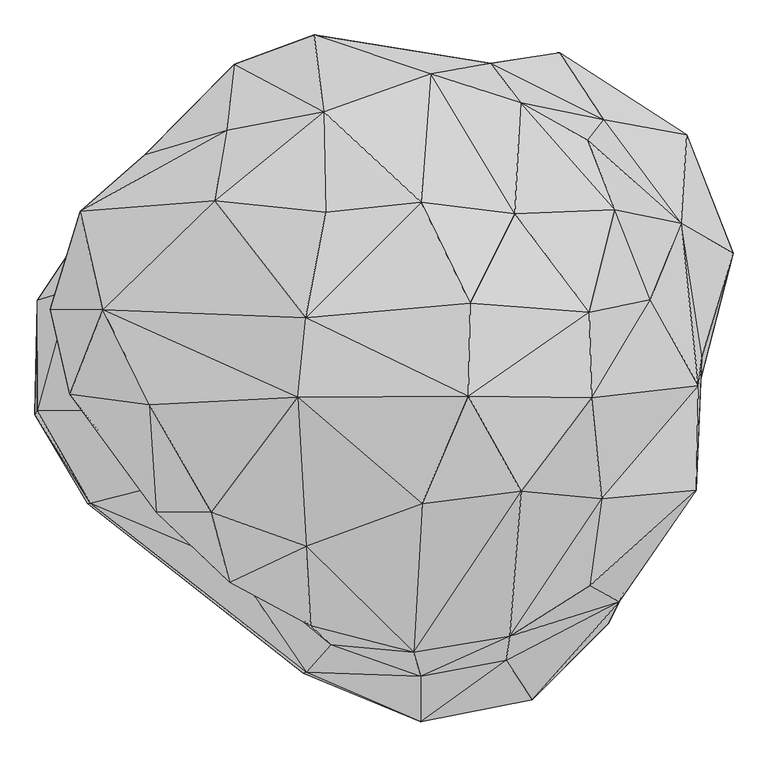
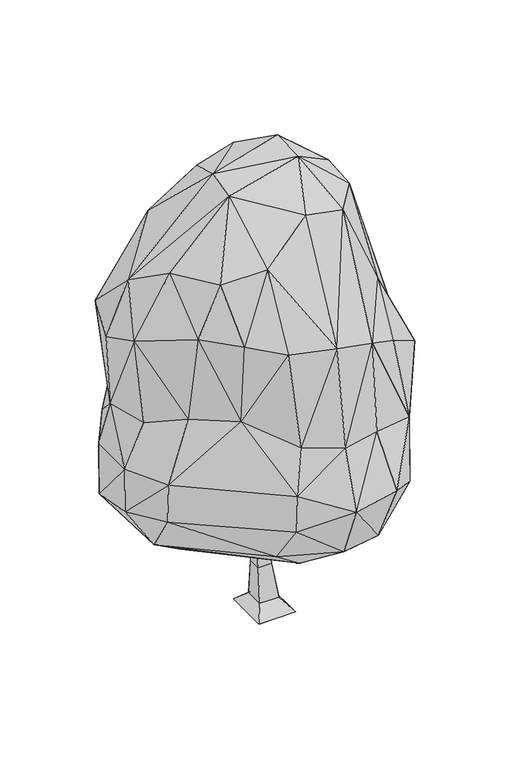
"""IFC4 building model written with IfcOpenShell, lengths in millimetres: geographic element geometry, Enscape AssetDefinition - Evergreen Tree 066 Lophostemon : Enscape AssetDefinition - Evergreen Tree 066 Lophostemon 2."""

from ifc_helpers import new_model, si_unit, origin, place, context, project, spatial, triangles, source, transform, mapped, element, save


def geographic_element_27884fb9(model_context):
    return source(origin(), model_context, "Body", "Tessellation", [
        triangles([(213.655745, 233.5513511, 0.0), (213.655745, -336.1697059, 0.0), (-257.6348193, -336.1697059, 0.0), (-257.6348193, 233.5513511, 0.0), (-123.3651534, -123.3651534, 104.2936613), (-103.8228506, -54.797005, 539.0462033), (123.3651534, 123.3651534, 104.2936613), (-123.3651534, 123.3651534, 104.2936613), (123.3651534, -123.3651534, 104.2936613), (70.910629, 119.9364837, 539.0462033), (-140.2031882, 70.6686516, 1834.4518353), (-103.8228506, 119.9364837, 539.0462033), (-140.2031882, 220.097939, 1834.4518353), (9.2261209, 220.097939, 1834.4518353), (70.910629, -54.797005, 539.0462033), (9.2261209, 70.6686516, 1834.4518353), (1027.1825781, 338.9304385, 5457.8279068), (663.5346439, 1445.8182896, 4253.2773033), (188.2000495, 1600.7041843, 4318.6744743), (633.9823053, 858.3871399, 5513.5762482), (397.507132, 385.4383192, 5988.7972412), (138.8989618, 918.3762835, 5655.5460709), (-471.707254, 309.7561292, 5808.4640625), (-378.20137, 1398.5256821, 4826.1077454), (-851.991382, 1649.0634418, 3235.1350891), (-366.0011335, 866.4629551, 5549.4670807), (-1666.1150173, 871.0311356, 4169.6460709), (-953.4462358, 928.7295759, 5109.5137024), (-891.1378298, 1301.9490189, 4463.8685188), (-1824.2292034, 353.1685593, 4037.1846794), (-1323.9722385, 1170.6790518, 3934.2543343), (-1718.9112133, 455.0161217, 3034.2232246), (-1892.3094955, 400.5801275, 2585.4398621), (-1559.0891373, 902.748967, 2626.9518631), (-1547.0381287, 351.5303598, 4720.8438217), (-1721.6936016, -95.7192664, 4211.4202652), (-1299.6607864, -151.0396543, 5024.970607), (-514.0419519, -112.6863903, 5774.2359192), (388.3358894, -105.8236279, 6000.0000458), (1039.6610315, -115.1247316, 5409.7372375), (1351.3244934, 403.8936244, 4301.4822098), (1604.3995983, -51.1982466, 3534.3281639), (143.3504434, -676.6355158, 5628.0814682), (667.4495939, -608.9448801, 5474.5280502), (-469.9345425, -901.1749352, 5236.7065201), (-445.636934, -1321.6437469, 4318.8078964), (97.6087132, -1461.1759277, 4304.7096291), (135.3659198, -1588.089402, 3010.3578209), (-971.9905254, -720.8844864, 5090.2456924), (-875.6650824, -1090.9140804, 4443.2677414), (-861.3504765, -989.8806398, 3358.9188126), (-340.7904994, -1420.5775337, 3082.4752213), (-1321.4241383, -597.4504509, 3314.393914), (-1263.9136951, -721.18207, 4452.2099281), (-1650.4597229, -181.1084403, 3135.1406113), (-1612.0107616, -672.7050871, 2565.7898987), (-1894.430151, -182.9120547, 2586.8069298), (-1905.664785, -203.8119055, 2026.3751495), (-1893.2581295, 389.6895859, 1905.9902012), (-1627.2947124, -674.2234537, 2067.7211723), (-566.1872792, -1269.9746624, 1591.8699852), (-1592.9415768, -313.8164191, 1535.0799923), (-1303.0778744, 341.1399693, 1287.9708023), (116.6570055, -1587.380579, 1613.617931), (-485.0864882, -1572.0633453, 2075.756583), (-147.7617203, -1050.4171337, 1222.0527328), (567.2371425, 420.2446249, 922.450526), (-382.8105726, 862.8254591, 1268.4137112), (-1153.5944841, -141.639583, 1216.9558056), (497.2542412, 870.2271149, 959.1910887), (1056.7240162, -1053.9748381, 1587.0365593), (547.3979828, -975.1857519, 1225.6113819), (1621.6071236, 881.8537308, 1540.7838593), (1144.8979219, 285.484046, 1062.5709703), (585.7860103, -1547.6828568, 1649.0582096), (1488.6415478, -519.7644224, 2065.8834938), (1633.8358829, 318.9899769, 1545.920319), (1543.6242382, 1278.3728416, 2074.5707542), (1126.5570356, 881.0095236, 1063.6988811), (1196.4162163, 1425.666758, 1484.6276939), (1788.311919, 651.2486206, 2063.3446953), (1622.9012306, 100.7327958, 2738.0558372), (1092.9829222, -647.5516806, 4420.8696899), (1593.8970417, -604.9881812, 3369.3771858), (1029.09438, -1109.4112072, 3882.0424049), (606.6757962, -1376.157716, 4148.3813805), (1129.2867382, -1306.5699577, 2048.3264259), (1186.4324507, -1192.6001701, 2833.548555), (726.9694347, -1712.002914, 2306.0291553), (588.3132543, -1503.9249172, 3031.4030479), (136.1513824, -1829.596027, 2290.0238823), (-470.9929081, -1566.884301, 2549.9292389), (1513.0311928, 809.0173336, 2933.4279236), (1104.8662811, 1355.8028538, 3029.387764), (1163.2249283, 881.4895815, 4414.6462326), (1020.3383011, 1246.8769444, 3994.2785774), (870.9948732, 1712.3399574, 2075.5734547), (506.3573919, 1654.9507278, 2773.8594658), (-427.2596764, 1805.0062489, 3268.8237305), (610.0944466, 1484.7460007, 1310.6788639), (-928.1667469, 1299.803801, 2342.725898), (-74.3826009, 1558.1066391, 2230.0340847), (44.6539922, 1383.3081516, 1502.7127819), (-1512.8951546, 981.6951656, 2009.9167065), (-1335.8415722, 837.4424881, 1581.4547779)], [[34, 59, 33], [34, 104, 59], [104, 105, 59], [59, 105, 63], [68, 63, 105], [25, 101, 34], [34, 101, 104], [104, 101, 105], [105, 103, 68], [101, 103, 105], [70, 68, 103], [100, 70, 103], [25, 99, 102], [25, 102, 101], [102, 100, 103], [102, 103, 101], [102, 97, 100], [97, 102, 98], [98, 102, 99], [18, 94, 98], [98, 94, 97], [96, 94, 18], [96, 18, 95], [96, 95, 93], [96, 93, 94], [93, 95, 41], [91, 65, 64], [75, 91, 64], [92, 91, 48], [65, 91, 92], [75, 89, 91], [87, 89, 75], [91, 89, 90], [91, 90, 48], [90, 86, 48], [88, 89, 87], [89, 88, 90], [88, 86, 90], [76, 88, 87], [88, 85, 86], [85, 83, 86], [76, 84, 88], [84, 85, 88], [83, 85, 84], [93, 41, 42], [83, 84, 42], [93, 42, 82], [76, 82, 84], [42, 84, 82], [81, 93, 82], [76, 81, 82], [94, 93, 78], [94, 78, 97], [93, 81, 78], [97, 80, 100], [97, 78, 80], [80, 79, 100], [79, 70, 100], [73, 79, 80], [80, 78, 73], [81, 73, 78], [81, 77, 73], [81, 76, 77], [76, 87, 71], [71, 77, 76], [87, 75, 71], [70, 79, 74], [74, 79, 73], [77, 71, 74], [74, 73, 77], [71, 75, 72], [74, 71, 72], [70, 74, 67], [74, 72, 67], [68, 69, 63], [68, 70, 69], [70, 67, 69], [75, 64, 66], [72, 66, 67], [75, 66, 72], [66, 69, 67], [66, 64, 61], [61, 64, 65], [62, 59, 63], [66, 62, 69], [61, 62, 66], [62, 63, 69], [61, 65, 60], [61, 60, 62], [60, 58, 62], [59, 62, 58], [57, 33, 59], [57, 59, 58], [56, 57, 58], [65, 92, 56], [56, 58, 60], [65, 56, 60], [56, 55, 57], [56, 53, 55], [36, 55, 53], [36, 54, 37], [36, 53, 54], [54, 53, 51], [92, 51, 56], [51, 53, 56], [52, 51, 92], [48, 52, 92], [46, 51, 52], [46, 50, 51], [54, 51, 50], [49, 54, 50], [49, 37, 54], [37, 49, 38], [38, 49, 45], [45, 49, 50], [50, 46, 45], [47, 46, 52], [86, 47, 48], [47, 52, 48], [46, 47, 45], [43, 45, 47], [43, 38, 45], [44, 47, 86], [44, 43, 47], [83, 44, 86], [41, 40, 42], [44, 83, 40], [42, 40, 83], [41, 17, 40], [17, 41, 95], [43, 39, 38], [39, 43, 44], [44, 40, 39], [17, 39, 40], [39, 23, 38], [35, 37, 38], [35, 36, 37], [35, 38, 23], [35, 30, 36], [32, 25, 34], [32, 33, 57], [36, 30, 32], [34, 33, 32], [32, 57, 55], [36, 32, 55], [32, 31, 25], [32, 27, 31], [27, 32, 30], [35, 27, 30], [31, 29, 25], [27, 29, 31], [28, 27, 35], [28, 29, 27], [28, 35, 23], [23, 26, 28], [24, 99, 25], [24, 25, 29], [28, 24, 29], [24, 28, 26], [19, 18, 98], [99, 19, 98], [24, 19, 99], [22, 19, 24], [22, 26, 23], [22, 24, 26], [39, 21, 23], [17, 21, 39], [22, 23, 21], [21, 20, 22], [95, 20, 17], [20, 18, 19], [22, 20, 19], [20, 95, 18], [20, 21, 17], [15, 14, 16], [15, 10, 14], [10, 13, 14], [12, 11, 13], [10, 12, 13], [6, 16, 11], [6, 15, 16], [12, 6, 11], [5, 15, 6], [9, 10, 15], [5, 9, 15], [7, 12, 10], [9, 7, 10], [7, 8, 12], [8, 6, 12], [8, 5, 6], [4, 5, 8], [4, 3, 5], [3, 9, 5], [2, 7, 9], [3, 2, 9], [2, 1, 7], [1, 8, 7], [1, 4, 8], [1, 3, 4], [1, 2, 3]], closed=False),
    ])


if __name__ == "__main__":
    model = new_model("IFC4")
    model_context = context("Model", 3, world=origin())
    ifc_project = project(units=[si_unit("LENGTHUNIT", "METRE", prefix="MILLI")], contexts=[model_context])
    site = spatial("IfcSite", under=ifc_project)
    building = spatial("IfcBuilding", under=site)
    placement = place(None, origin())
    geographic_element_shape = geographic_element_27884fb9(model_context)
    element("IfcGeographicElement", 1, ObjectType="Enscape AssetDefinition - Evergreen Tree 066 Lophostemon : Enscape AssetDefinition - Evergreen Tree 066 Lophostemon 2", at=placement, inside=building, context=model_context, shape_type="MappedRepresentation", body=[
        mapped(geographic_element_shape, transform((0.0, 0.0, 0.0), x_axis=(1.0, 0.0, 0.0), y_axis=(0.0, 1.0, 0.0), z_axis=(0.0, 0.0, 1.0))),
    ])
    save(model, "model.ifc")
